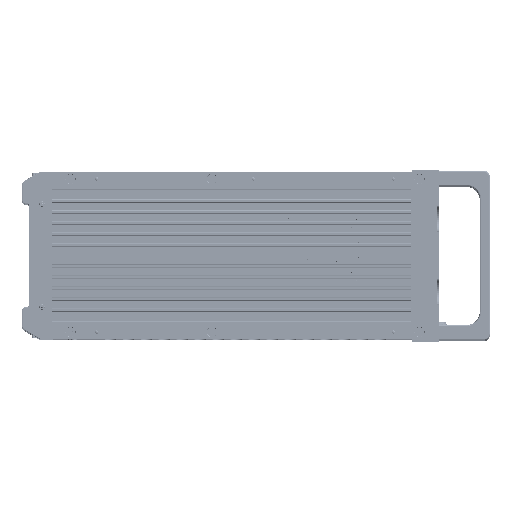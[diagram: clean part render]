
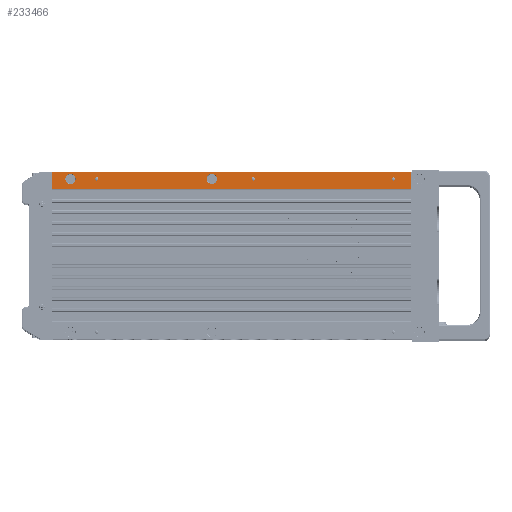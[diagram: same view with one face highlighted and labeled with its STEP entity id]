
A CAD part, top view. The second image highlights one B-rep face of the part: STEP entity #233466.
In plain terms, the highlighted free-form (B-spline) face has degree [1, 1] with [2, 2] control points.
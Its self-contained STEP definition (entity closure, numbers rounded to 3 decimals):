
#41396=DIRECTION('',(0.,-1.,0.));
#41397=VECTOR('',#41396,13.29);
#41398=CARTESIAN_POINT('',(-297.4,121.,122.2));
#41399=LINE('',#41398,#41397);
#41400=DIRECTION('',(-1.,0.,0.));
#41401=VECTOR('',#41400,279.4);
#41402=CARTESIAN_POINT('',(-18.,121.,122.2));
#41403=LINE('',#41402,#41401);
#41404=DIRECTION('',(0.,-1.,0.));
#41405=VECTOR('',#41404,13.29);
#41406=CARTESIAN_POINT('',(-18.,121.,122.2));
#41407=LINE('',#41406,#41405);
#41408=DIRECTION('',(1.,0.,0.));
#41409=VECTOR('',#41408,279.4);
#41410=CARTESIAN_POINT('',(-297.4,107.71,122.2));
#41411=LINE('',#41410,#41409);
#41412=CARTESIAN_POINT('',(-283.15,115.8,122.2));
#41413=DIRECTION('',(0.,0.,1.));
#41414=DIRECTION('',(1.,0.,0.));
#41415=AXIS2_PLACEMENT_3D('',#41412,#41413,#41414);
#41417=CARTESIAN_POINT('',(-283.15,115.8,122.2));
#41418=DIRECTION('',(0.,0.,1.));
#41419=DIRECTION('',(-1.,0.,0.));
#41420=AXIS2_PLACEMENT_3D('',#41417,#41418,#41419);
#41422=CARTESIAN_POINT('',(-173.15,115.8,122.2));
#41423=DIRECTION('',(0.,0.,1.));
#41424=DIRECTION('',(1.,0.,0.));
#41425=AXIS2_PLACEMENT_3D('',#41422,#41423,#41424);
#41427=CARTESIAN_POINT('',(-173.15,115.8,122.2));
#41428=DIRECTION('',(0.,0.,1.));
#41429=DIRECTION('',(-1.,0.,0.));
#41430=AXIS2_PLACEMENT_3D('',#41427,#41428,#41429);
#41432=CARTESIAN_POINT('',(-262.65,115.8,122.2));
#41433=DIRECTION('',(0.,0.,1.));
#41434=DIRECTION('',(-1.,0.,0.));
#41435=AXIS2_PLACEMENT_3D('',#41432,#41433,#41434);
#41437=CARTESIAN_POINT('',(-262.65,115.8,122.2));
#41438=DIRECTION('',(0.,0.,1.));
#41439=DIRECTION('',(1.,0.,0.));
#41440=AXIS2_PLACEMENT_3D('',#41437,#41438,#41439);
#41442=CARTESIAN_POINT('',(-141.15,115.8,122.2));
#41443=DIRECTION('',(0.,0.,1.));
#41444=DIRECTION('',(-1.,0.,0.));
#41445=AXIS2_PLACEMENT_3D('',#41442,#41443,#41444);
#41447=CARTESIAN_POINT('',(-141.15,115.8,122.2));
#41448=DIRECTION('',(0.,0.,1.));
#41449=DIRECTION('',(1.,0.,0.));
#41450=AXIS2_PLACEMENT_3D('',#41447,#41448,#41449);
#41452=CARTESIAN_POINT('',(-32.1,115.8,122.2));
#41453=DIRECTION('',(0.,0.,1.));
#41454=DIRECTION('',(-1.,0.,0.));
#41455=AXIS2_PLACEMENT_3D('',#41452,#41453,#41454);
#41457=CARTESIAN_POINT('',(-32.1,115.8,122.2));
#41458=DIRECTION('',(0.,0.,1.));
#41459=DIRECTION('',(1.,0.,0.));
#41460=AXIS2_PLACEMENT_3D('',#41457,#41458,#41459);
#128898=CARTESIAN_POINT('',(-18.,121.,122.2));
#128899=CARTESIAN_POINT('',(-18.,107.71,122.2));
#128900=VERTEX_POINT('',#128898);
#128901=VERTEX_POINT('',#128899);
#129054=CARTESIAN_POINT('',(-297.4,121.,122.2));
#129055=CARTESIAN_POINT('',(-297.4,107.71,122.2));
#129056=VERTEX_POINT('',#129054);
#129057=VERTEX_POINT('',#129055);
#129748=CARTESIAN_POINT('',(-263.9,115.8,122.2));
#129749=CARTESIAN_POINT('',(-261.4,115.8,122.2));
#129750=VERTEX_POINT('',#129748);
#129751=VERTEX_POINT('',#129749);
#129752=CARTESIAN_POINT('',(-142.4,115.8,122.2));
#129753=CARTESIAN_POINT('',(-139.9,115.8,122.2));
#129754=VERTEX_POINT('',#129752);
#129755=VERTEX_POINT('',#129753);
#129756=CARTESIAN_POINT('',(-33.35,115.8,122.2));
#129757=CARTESIAN_POINT('',(-30.85,115.8,122.2));
#129758=VERTEX_POINT('',#129756);
#129759=VERTEX_POINT('',#129757);
#129816=CARTESIAN_POINT('',(-279.15,115.8,122.2));
#129817=CARTESIAN_POINT('',(-287.15,115.8,122.2));
#129818=VERTEX_POINT('',#129816);
#129819=VERTEX_POINT('',#129817);
#129820=CARTESIAN_POINT('',(-169.15,115.8,122.2));
#129821=CARTESIAN_POINT('',(-177.15,115.8,122.2));
#129822=VERTEX_POINT('',#129820);
#129823=VERTEX_POINT('',#129821);
#233425=CARTESIAN_POINT('',(-302.988,121.266,122.2));
#233426=CARTESIAN_POINT('',(-12.412,121.266,122.2));
#233427=CARTESIAN_POINT('',(-302.988,107.444,122.2));
#233428=CARTESIAN_POINT('',(-12.412,107.444,122.2));
#233429=B_SPLINE_SURFACE_WITH_KNOTS('',1,1,((#233425,#233426),(#233427,
#233428)),.UNSPECIFIED.,.F.,.F.,.F.,(2,2),(2,2),(0.234,
14.056),(-304.988,-14.412),.UNSPECIFIED.);
#233430=ORIENTED_EDGE('',*,*,#229607,.F.);
#233431=ORIENTED_EDGE('',*,*,#229878,.F.);
#233432=ORIENTED_EDGE('',*,*,#230138,.T.);
#233433=ORIENTED_EDGE('',*,*,#233411,.F.);
#233434=EDGE_LOOP('',(#233430,#233431,#233432,#233433));
#233435=FACE_OUTER_BOUND('',#233434,.F.);
#233437=ORIENTED_EDGE('',*,*,#233436,.T.);
#233439=ORIENTED_EDGE('',*,*,#233438,.T.);
#233440=EDGE_LOOP('',(#233437,#233439));
#233441=FACE_BOUND('',#233440,.F.);
#233443=ORIENTED_EDGE('',*,*,#233442,.T.);
#233445=ORIENTED_EDGE('',*,*,#233444,.T.);
#233446=EDGE_LOOP('',(#233443,#233445));
#233447=FACE_BOUND('',#233446,.F.);
#233449=ORIENTED_EDGE('',*,*,#233448,.T.);
#233451=ORIENTED_EDGE('',*,*,#233450,.T.);
#233452=EDGE_LOOP('',(#233449,#233451));
#233453=FACE_BOUND('',#233452,.F.);
#233455=ORIENTED_EDGE('',*,*,#233454,.T.);
#233457=ORIENTED_EDGE('',*,*,#233456,.T.);
#233458=EDGE_LOOP('',(#233455,#233457));
#233459=FACE_BOUND('',#233458,.F.);
#233461=ORIENTED_EDGE('',*,*,#233460,.T.);
#233463=ORIENTED_EDGE('',*,*,#233462,.T.);
#233464=EDGE_LOOP('',(#233461,#233463));
#233465=FACE_BOUND('',#233464,.F.);
#233466=ADVANCED_FACE('',(#233435,#233441,#233447,#233453,#233459,#233465),
#233429,.T.);
#41416=CIRCLE('',#41415,4.);
#41421=CIRCLE('',#41420,4.);
#41426=CIRCLE('',#41425,4.);
#41431=CIRCLE('',#41430,4.);
#41436=CIRCLE('',#41435,1.25);
#41441=CIRCLE('',#41440,1.25);
#41446=CIRCLE('',#41445,1.25);
#41451=CIRCLE('',#41450,1.25);
#41456=CIRCLE('',#41455,1.25);
#41461=CIRCLE('',#41460,1.25);
#229607=EDGE_CURVE('',#129056,#129057,#41399,.T.);
#229878=EDGE_CURVE('',#128900,#129056,#41403,.T.);
#230138=EDGE_CURVE('',#128900,#128901,#41407,.T.);
#233411=EDGE_CURVE('',#129057,#128901,#41411,.T.);
#233436=EDGE_CURVE('',#129818,#129819,#41416,.T.);
#233438=EDGE_CURVE('',#129819,#129818,#41421,.T.);
#233442=EDGE_CURVE('',#129822,#129823,#41426,.T.);
#233444=EDGE_CURVE('',#129823,#129822,#41431,.T.);
#233448=EDGE_CURVE('',#129750,#129751,#41436,.T.);
#233450=EDGE_CURVE('',#129751,#129750,#41441,.T.);
#233454=EDGE_CURVE('',#129754,#129755,#41446,.T.);
#233456=EDGE_CURVE('',#129755,#129754,#41451,.T.);
#233460=EDGE_CURVE('',#129758,#129759,#41456,.T.);
#233462=EDGE_CURVE('',#129759,#129758,#41461,.T.);
